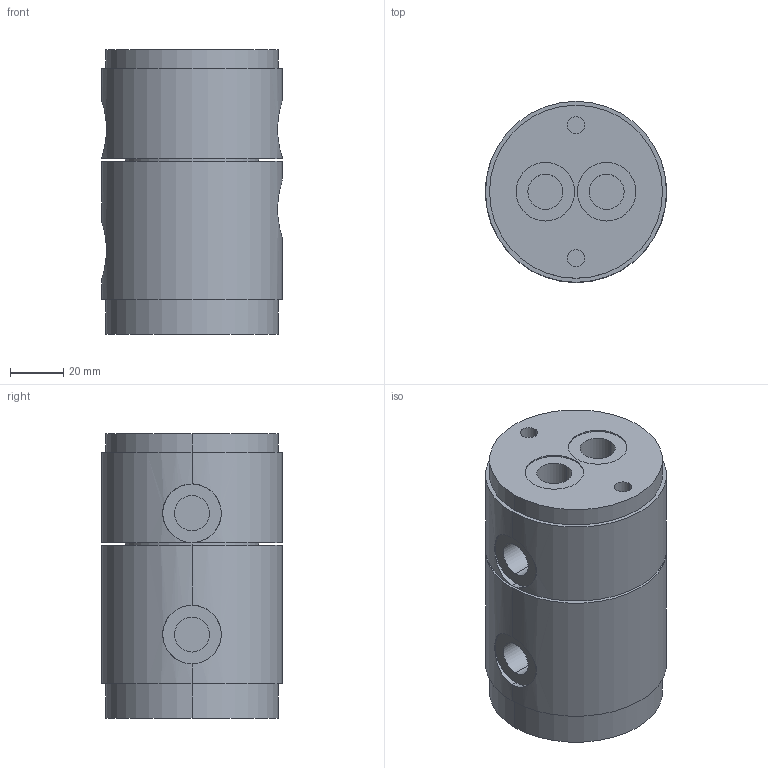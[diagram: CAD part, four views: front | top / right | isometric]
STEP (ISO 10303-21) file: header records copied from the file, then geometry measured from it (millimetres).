
FILE_DESCRIPTION (( 'STEP AP203' ), '1' );
FILE_NAME ('5110 222.STEP', '2016-01-29T10:33:30', ( '' ), ( '' ), 'SwSTEP 2.0', 'SolidWorks 2015', '' );
FILE_SCHEMA (( 'CONFIG_CONTROL_DESIGN' ));
Length unit declared in the file: millimetre
Products named in the file (1): 5110 222
Bounding box: 68 x 68 x 107 mm (x, y, z)
Volume: 365021.3 mm3; surface area: 37691.5 mm2
Topology: 1 solids, 1 shells, 58 faces, 118 edges, 76 vertices
Faces by surface type: cylinder 38, plane 20
Entity records: 1991 total; most frequent: CARTESIAN_POINT 637, DIRECTION 296, ORIENTED_EDGE 236, AXIS2_PLACEMENT_3D 127, EDGE_CURVE 118, VERTEX_POINT 76, EDGE_LOOP 72, CIRCLE 68
